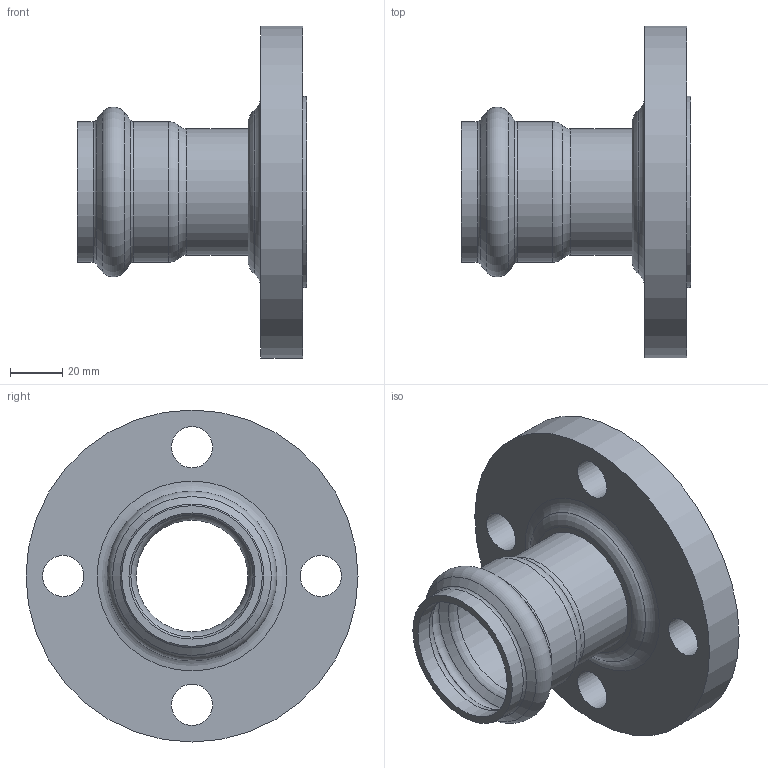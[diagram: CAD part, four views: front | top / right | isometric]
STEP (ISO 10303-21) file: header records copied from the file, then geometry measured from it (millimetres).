
FILE_DESCRIPTION(/* description */ ('VIC FLANGE ADAPTER STYLE P595','CAx-IF Rec.Pracs.---Representation and Presentation of Product Manufacturing Information (PMI)---4.0---2014-10-13'),/* implementation_level */ '2;1');
FILE_NAME(/* name */ 'C:\Users\Vjadhav\AppData\Roaming\Autodesk\ApplicationPlugins\Back Up\Victaulic_SS-Vic-Press-TP 304_Flange Adapter_CL 150 RF_Style P595 (VPxFLG)\Victaulic_SS-Vic-Press-TP 304_Flange Adapter_CL 150 RF_Style P595 (VPxFLG)_1.5 (40).stp',/* time_stamp */ '2020-08-12T17:42:01+05:00',/* author */ ('cgray'),/* organization */ ('Victaulic'),/* preprocessor_version */ 'ST-DEVELOPER v17.2',/* originating_system */ 'Autodesk Inventor 2019',/* authorisation */ '');
FILE_SCHEMA (('AP242_MANAGED_MODEL_BASED_3D_ENGINEERING_MIM_LF { 1 0 10303 442 1 1 4 }'));
Length unit declared in the file: inch
Products named in the file (1): P595-01.5
Bounding box: 87.63 x 127 x 127 mm (x, y, z)
Volume: 210521.4 mm3; surface area: 56533.9 mm2
Topology: 1 solids, 1 shells, 33 faces, 114 edges, 86 vertices
Faces by surface type: cylinder 12, torus 12, plane 5, cone 4
Full cylindrical faces by diameter (mm): 15.748 x4, 42.723 x1, 48.26 x3, 53.797 x2, 73.152 x1, 127 x1
Entity records: 1531 total; most frequent: DIRECTION 306, CARTESIAN_POINT 251, ORIENTED_EDGE 228, AXIS2_PLACEMENT_3D 145, EDGE_CURVE 114, CIRCLE 98, VERTEX_POINT 86, EDGE_LOOP 46
